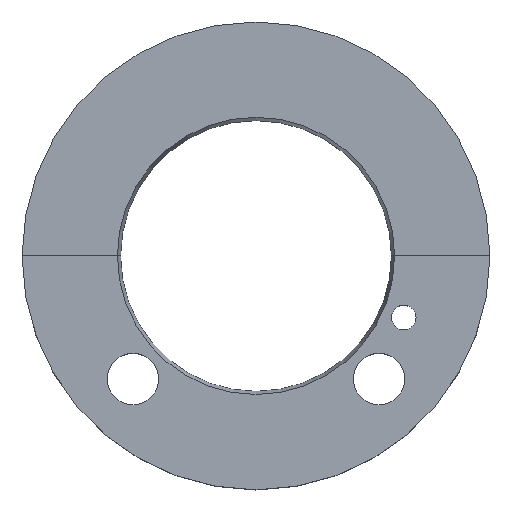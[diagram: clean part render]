
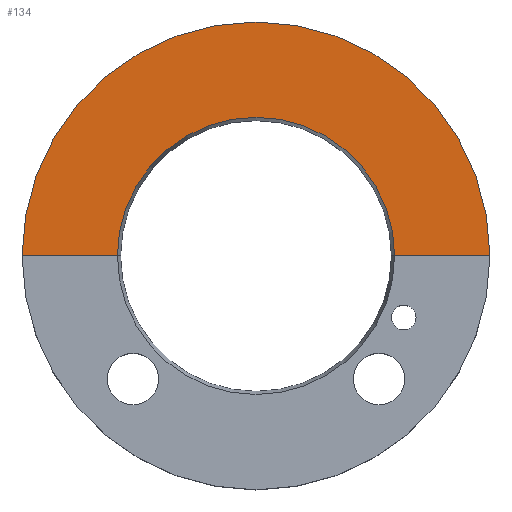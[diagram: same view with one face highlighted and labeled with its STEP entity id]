
A CAD part, top view. The second image highlights one B-rep face of the part: STEP entity #134.
In plain terms, the highlighted planar face has unit normal (0, 0, 1).
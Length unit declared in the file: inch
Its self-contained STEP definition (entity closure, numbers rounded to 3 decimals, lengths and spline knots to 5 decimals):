
#21 = FACE_OUTER_BOUND ( 'NONE', #569, .T. ) ;
#35 = CIRCLE ( 'NONE', #331, 0.70358 ) ;
#45 = DIRECTION ( 'NONE',  ( 1., 0., 0. ) ) ;
#51 = CARTESIAN_POINT ( 'NONE',  ( 0., 0., 0.5 ) ) ;
#60 = CARTESIAN_POINT ( 'NONE',  ( -1.1875, 0., 0.5 ) ) ;
#71 = CARTESIAN_POINT ( 'NONE',  ( -0.70358, 0., 0.5 ) ) ;
#96 = CARTESIAN_POINT ( 'NONE',  ( -1.1875, 0., 0.5 ) ) ;
#102 = DIRECTION ( 'NONE',  ( 1., 0., 0. ) ) ;
#134 = ADVANCED_FACE ( 'NONE', ( #21 ), #228, .T. ) ;
#136 = CARTESIAN_POINT ( 'NONE',  ( 0.70358, 0., 0.5 ) ) ;
#150 = AXIS2_PLACEMENT_3D ( 'NONE', #351, #349, #347 ) ;
#158 = EDGE_CURVE ( 'NONE', #296, #287, #597, .T. ) ;
#176 = VECTOR ( 'NONE', #102, 39.37008 ) ;
#182 = EDGE_CURVE ( 'NONE', #287, #492, #35, .T. ) ;
#196 = EDGE_CURVE ( 'NONE', #492, #474, #250, .T. ) ;
#227 = CARTESIAN_POINT ( 'NONE',  ( 0., 0., 0.5 ) ) ;
#228 = PLANE ( 'NONE',  #486 ) ;
#242 = CARTESIAN_POINT ( 'NONE',  ( 1.1875, 0., 0.5 ) ) ;
#250 = LINE ( 'NONE', #455, #176 ) ;
#253 = ORIENTED_EDGE ( 'NONE', *, *, #358, .T. ) ;
#265 = DIRECTION ( 'NONE',  ( 0., 0., -1. ) ) ;
#285 = ORIENTED_EDGE ( 'NONE', *, *, #158, .T. ) ;
#286 = CIRCLE ( 'NONE', #150, 1.1875 ) ;
#287 = VERTEX_POINT ( 'NONE', #71 ) ;
#296 = VERTEX_POINT ( 'NONE', #96 ) ;
#328 = ORIENTED_EDGE ( 'NONE', *, *, #182, .T. ) ;
#331 = AXIS2_PLACEMENT_3D ( 'NONE', #227, #265, #496 ) ;
#347 = DIRECTION ( 'NONE',  ( 1., 0., 0. ) ) ;
#349 = DIRECTION ( 'NONE',  ( 0., 0., 1. ) ) ;
#351 = CARTESIAN_POINT ( 'NONE',  ( 0., 0., 0.5 ) ) ;
#358 = EDGE_CURVE ( 'NONE', #474, #296, #286, .T. ) ;
#455 = CARTESIAN_POINT ( 'NONE',  ( -1.1875, 0., 0.5 ) ) ;
#474 = VERTEX_POINT ( 'NONE', #242 ) ;
#486 = AXIS2_PLACEMENT_3D ( 'NONE', #51, #571, #534 ) ;
#492 = VERTEX_POINT ( 'NONE', #136 ) ;
#496 = DIRECTION ( 'NONE',  ( 1., 0., 0. ) ) ;
#534 = DIRECTION ( 'NONE',  ( 1., 0., 0. ) ) ;
#559 = VECTOR ( 'NONE', #45, 39.37008 ) ;
#569 = EDGE_LOOP ( 'NONE', ( #285, #328, #620, #253 ) ) ;
#571 = DIRECTION ( 'NONE',  ( 0., 0., 1. ) ) ;
#597 = LINE ( 'NONE', #60, #559 ) ;
#620 = ORIENTED_EDGE ( 'NONE', *, *, #196, .T. ) ;
